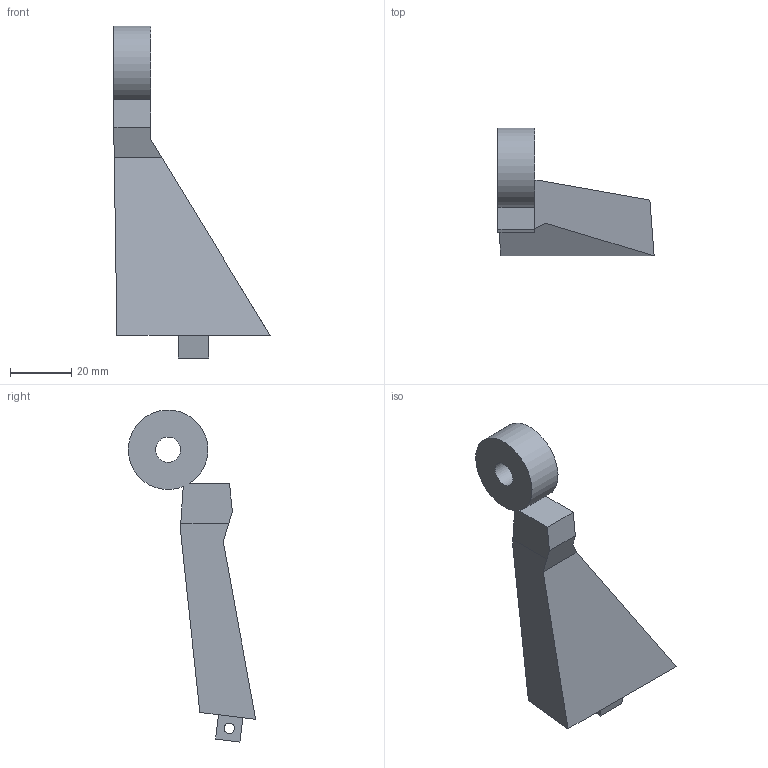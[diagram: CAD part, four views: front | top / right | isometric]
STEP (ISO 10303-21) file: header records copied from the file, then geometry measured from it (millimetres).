
FILE_DESCRIPTION(('Open CASCADE Model'),'2;1');
FILE_NAME('Open CASCADE Shape Model','2026-10-16T02:10:56',('Author'),( 'Open CASCADE'),'Open CASCADE STEP processor 7.9','Open CASCADE 7.9' ,'Unknown');
FILE_SCHEMA(('AUTOMOTIVE_DESIGN { 1 0 10303 214 1 1 1 1 }'));
Length unit declared in the file: millimetre
Products named in the file (1): Open CASCADE STEP translator 7.9 17
Bounding box: 50.99 x 41.58 x 108.4 mm (x, y, z)
Volume: 39696.9 mm3; surface area: 10406.8 mm2
Topology: 1 solids, 1 shells, 19 faces, 48 edges, 32 vertices
Faces by surface type: plane 16, cylinder 3
Full cylindrical faces by diameter (mm): 3.4 x1, 8.2 x1
Entity records: 1178 total; most frequent: CARTESIAN_POINT 264, DIRECTION 142, ORIENTED_EDGE 96, PCURVE 96, DEFINITIONAL_REPRESENTATION 96, LINE 88, VECTOR 88, EDGE_CURVE 48
